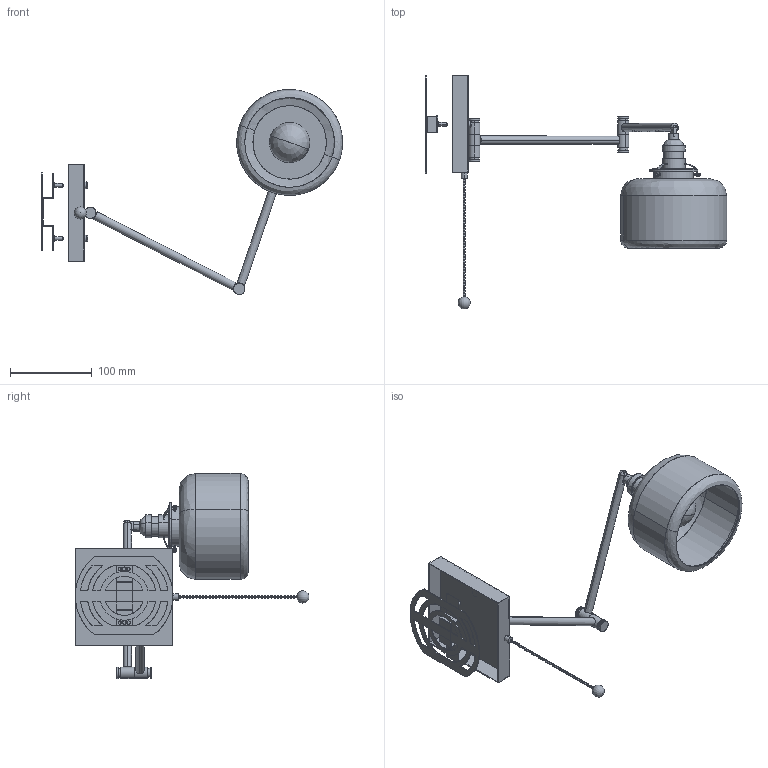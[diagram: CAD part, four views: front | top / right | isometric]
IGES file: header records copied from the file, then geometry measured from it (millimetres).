
Start section: SolidWorks IGES file using analytic representation for surfaces
Global section: file name: F:\燠隴矨\3D\2026-1\Ceramic Geometry Wall Lamp-A.IGS,15; native system: HSolidWorks 2022; preprocessor: SolidWorks 2022; author: MyPC; date: 260104.114919; units: millimetre
Bounding box: 369.62 x 286.98 x 251.65 mm (x, y, z)
Surface area: 199434 mm2 (no closed solid volume)
Topology: 0 solids, 0 shells, 416 faces, 5345 edges, 5270 vertices
Faces by surface type: revolution 216, bspline 200
